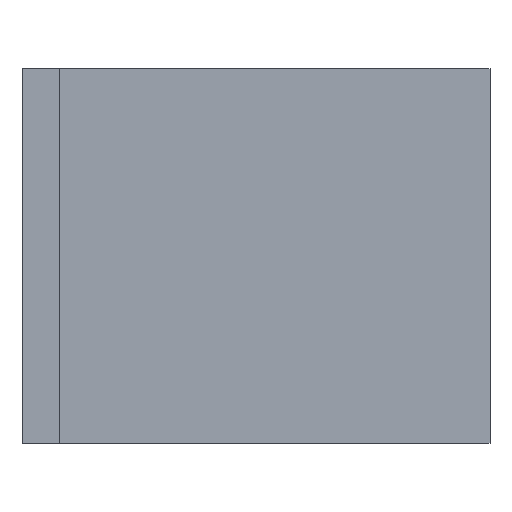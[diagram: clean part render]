
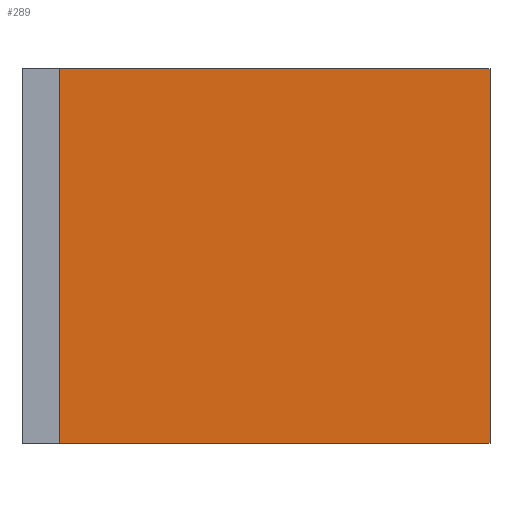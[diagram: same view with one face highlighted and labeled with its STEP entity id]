
A CAD part, left-side view. The second image highlights one B-rep face of the part: STEP entity #289.
In plain terms, the highlighted planar face has unit normal (-1, 0, 0).
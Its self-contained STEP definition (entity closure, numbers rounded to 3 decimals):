
#72 = PLANE('',#73);
#73 = AXIS2_PLACEMENT_3D('',#74,#75,#76);
#74 = CARTESIAN_POINT('',(-23.885,-27.885,80.));
#75 = DIRECTION('',(-0.,-0.,-1.));
#76 = DIRECTION('',(-1.,0.,0.));
#126 = PLANE('',#127);
#127 = AXIS2_PLACEMENT_3D('',#128,#129,#130);
#128 = CARTESIAN_POINT('',(-23.885,-27.885,0.));
#129 = DIRECTION('',(-0.,-0.,-1.));
#130 = DIRECTION('',(-1.,0.,0.));
#181 = PLANE('',#182);
#182 = AXIS2_PLACEMENT_3D('',#183,#184,#185);
#183 = CARTESIAN_POINT('',(8.,-100.,0.));
#184 = DIRECTION('',(0.,-1.,0.));
#185 = DIRECTION('',(-1.,0.,0.));
#219 = VERTEX_POINT('',#220);
#220 = CARTESIAN_POINT('',(0.,-100.,80.));
#241 = EDGE_CURVE('',#242,#219,#244,.T.);
#242 = VERTEX_POINT('',#243);
#243 = CARTESIAN_POINT('',(0.,-100.,0.));
#244 = SURFACE_CURVE('',#245,(#249,#256),.PCURVE_S1.);
#245 = LINE('',#246,#247);
#246 = CARTESIAN_POINT('',(0.,-100.,0.));
#247 = VECTOR('',#248,1.);
#248 = DIRECTION('',(0.,0.,1.));
#249 = PCURVE('',#181,#250);
#250 = DEFINITIONAL_REPRESENTATION('',(#251),#255);
#251 = LINE('',#252,#253);
#252 = CARTESIAN_POINT('',(8.,0.));
#253 = VECTOR('',#254,1.);
#254 = DIRECTION('',(0.,-1.));
#255 = ( GEOMETRIC_REPRESENTATION_CONTEXT(2) 
PARAMETRIC_REPRESENTATION_CONTEXT() REPRESENTATION_CONTEXT('2D SPACE',''
  ) );
#256 = PCURVE('',#257,#262);
#257 = PLANE('',#258);
#258 = AXIS2_PLACEMENT_3D('',#259,#260,#261);
#259 = CARTESIAN_POINT('',(0.,-100.,0.));
#260 = DIRECTION('',(-1.,0.,0.));
#261 = DIRECTION('',(0.,1.,0.));
#262 = DEFINITIONAL_REPRESENTATION('',(#263),#267);
#263 = LINE('',#264,#265);
#264 = CARTESIAN_POINT('',(0.,0.));
#265 = VECTOR('',#266,1.);
#266 = DIRECTION('',(0.,-1.));
#267 = ( GEOMETRIC_REPRESENTATION_CONTEXT(2) 
PARAMETRIC_REPRESENTATION_CONTEXT() REPRESENTATION_CONTEXT('2D SPACE',''
  ) );
#289 = ADVANCED_FACE('',(#290),#257,.T.);
#290 = FACE_BOUND('',#291,.T.);
#291 = EDGE_LOOP('',(#292,#293,#316,#344));
#292 = ORIENTED_EDGE('',*,*,#241,.T.);
#293 = ORIENTED_EDGE('',*,*,#294,.T.);
#294 = EDGE_CURVE('',#219,#295,#297,.T.);
#295 = VERTEX_POINT('',#296);
#296 = CARTESIAN_POINT('',(0.,-8.,80.));
#297 = SURFACE_CURVE('',#298,(#302,#309),.PCURVE_S1.);
#298 = LINE('',#299,#300);
#299 = CARTESIAN_POINT('',(0.,-100.,80.));
#300 = VECTOR('',#301,1.);
#301 = DIRECTION('',(0.,1.,0.));
#302 = PCURVE('',#257,#303);
#303 = DEFINITIONAL_REPRESENTATION('',(#304),#308);
#304 = LINE('',#305,#306);
#305 = CARTESIAN_POINT('',(0.,-80.));
#306 = VECTOR('',#307,1.);
#307 = DIRECTION('',(1.,0.));
#308 = ( GEOMETRIC_REPRESENTATION_CONTEXT(2) 
PARAMETRIC_REPRESENTATION_CONTEXT() REPRESENTATION_CONTEXT('2D SPACE',''
  ) );
#309 = PCURVE('',#72,#310);
#310 = DEFINITIONAL_REPRESENTATION('',(#311),#315);
#311 = LINE('',#312,#313);
#312 = CARTESIAN_POINT('',(-23.885,-72.115));
#313 = VECTOR('',#314,1.);
#314 = DIRECTION('',(0.,1.));
#315 = ( GEOMETRIC_REPRESENTATION_CONTEXT(2) 
PARAMETRIC_REPRESENTATION_CONTEXT() REPRESENTATION_CONTEXT('2D SPACE',''
  ) );
#316 = ORIENTED_EDGE('',*,*,#317,.F.);
#317 = EDGE_CURVE('',#318,#295,#320,.T.);
#318 = VERTEX_POINT('',#319);
#319 = CARTESIAN_POINT('',(0.,-8.,0.));
#320 = SURFACE_CURVE('',#321,(#325,#332),.PCURVE_S1.);
#321 = LINE('',#322,#323);
#322 = CARTESIAN_POINT('',(0.,-8.,0.));
#323 = VECTOR('',#324,1.);
#324 = DIRECTION('',(0.,0.,1.));
#325 = PCURVE('',#257,#326);
#326 = DEFINITIONAL_REPRESENTATION('',(#327),#331);
#327 = LINE('',#328,#329);
#328 = CARTESIAN_POINT('',(92.,0.));
#329 = VECTOR('',#330,1.);
#330 = DIRECTION('',(0.,-1.));
#331 = ( GEOMETRIC_REPRESENTATION_CONTEXT(2) 
PARAMETRIC_REPRESENTATION_CONTEXT() REPRESENTATION_CONTEXT('2D SPACE',''
  ) );
#332 = PCURVE('',#333,#338);
#333 = PLANE('',#334);
#334 = AXIS2_PLACEMENT_3D('',#335,#336,#337);
#335 = CARTESIAN_POINT('',(0.,-8.,0.));
#336 = DIRECTION('',(0.,-1.,0.));
#337 = DIRECTION('',(-1.,0.,0.));
#338 = DEFINITIONAL_REPRESENTATION('',(#339),#343);
#339 = LINE('',#340,#341);
#340 = CARTESIAN_POINT('',(0.,-0.));
#341 = VECTOR('',#342,1.);
#342 = DIRECTION('',(0.,-1.));
#343 = ( GEOMETRIC_REPRESENTATION_CONTEXT(2) 
PARAMETRIC_REPRESENTATION_CONTEXT() REPRESENTATION_CONTEXT('2D SPACE',''
  ) );
#344 = ORIENTED_EDGE('',*,*,#345,.F.);
#345 = EDGE_CURVE('',#242,#318,#346,.T.);
#346 = SURFACE_CURVE('',#347,(#351,#358),.PCURVE_S1.);
#347 = LINE('',#348,#349);
#348 = CARTESIAN_POINT('',(0.,-100.,0.));
#349 = VECTOR('',#350,1.);
#350 = DIRECTION('',(0.,1.,0.));
#351 = PCURVE('',#257,#352);
#352 = DEFINITIONAL_REPRESENTATION('',(#353),#357);
#353 = LINE('',#354,#355);
#354 = CARTESIAN_POINT('',(0.,0.));
#355 = VECTOR('',#356,1.);
#356 = DIRECTION('',(1.,0.));
#357 = ( GEOMETRIC_REPRESENTATION_CONTEXT(2) 
PARAMETRIC_REPRESENTATION_CONTEXT() REPRESENTATION_CONTEXT('2D SPACE',''
  ) );
#358 = PCURVE('',#126,#359);
#359 = DEFINITIONAL_REPRESENTATION('',(#360),#364);
#360 = LINE('',#361,#362);
#361 = CARTESIAN_POINT('',(-23.885,-72.115));
#362 = VECTOR('',#363,1.);
#363 = DIRECTION('',(0.,1.));
#364 = ( GEOMETRIC_REPRESENTATION_CONTEXT(2) 
PARAMETRIC_REPRESENTATION_CONTEXT() REPRESENTATION_CONTEXT('2D SPACE',''
  ) );
